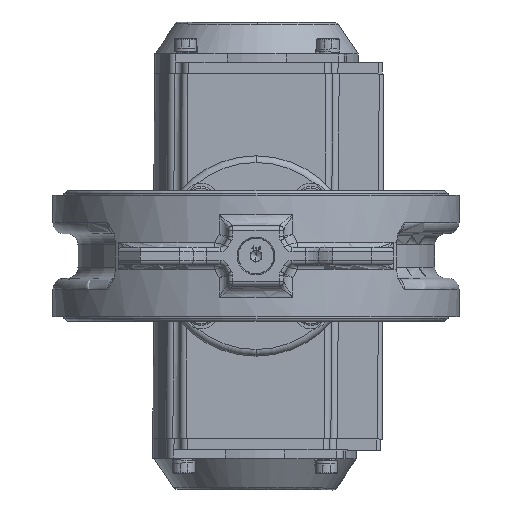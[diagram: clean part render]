
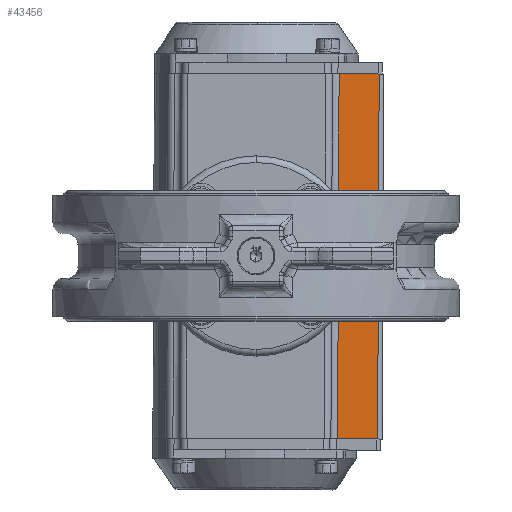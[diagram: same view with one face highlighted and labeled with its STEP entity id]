
A CAD part, front view. The second image highlights one B-rep face of the part: STEP entity #43456.
In plain terms, the highlighted planar face has unit normal (0, -1, 0).
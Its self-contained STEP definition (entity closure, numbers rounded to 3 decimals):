
#10376 = ORIENTED_EDGE ( 'NONE', *, *, #19669, .T. ) ;
#10379 = ORIENTED_EDGE ( 'NONE', *, *, #19766, .F. ) ;
#10382 = ORIENTED_EDGE ( 'NONE', *, *, #19885, .F. ) ;
#10385 = ORIENTED_EDGE ( 'NONE', *, *, #20078, .T. ) ;
#19669 = EDGE_CURVE ( 'NONE', #96257, #96248, #108053, .T. ) ;
#19766 = EDGE_CURVE ( 'NONE', #96335, #96248, #108387, .T. ) ;
#19885 = EDGE_CURVE ( 'NONE', #96408, #96335, #108707, .T. ) ;
#20078 = EDGE_CURVE ( 'NONE', #96408, #96257, #109332, .T. ) ;
#43456 = ADVANCED_FACE ( 'NONE', ( #225683 ), #225687, .T. ) ;
#53060 = AXIS2_PLACEMENT_3D ( 'NONE', #225649, #225694, #225697 ) ;
#55884 = EDGE_LOOP ( 'NONE', ( #10376, #10379, #10382, #10385 ) ) ;
#82483 = VECTOR ( 'NONE', #108068, 1000. ) ;
#82629 = VECTOR ( 'NONE', #108412, 1000. ) ;
#82853 = VECTOR ( 'NONE', #108730, 1000. ) ;
#83238 = VECTOR ( 'NONE', #109337, 1000. ) ;
#96248 = VERTEX_POINT ( 'NONE', #216008 ) ;
#96257 = VERTEX_POINT ( 'NONE', #216014 ) ;
#96335 = VERTEX_POINT ( 'NONE', #216065 ) ;
#96408 = VERTEX_POINT ( 'NONE', #216129 ) ;
#108035 = CARTESIAN_POINT ( 'NONE',  ( -0.335, 218., -81.999 ) ) ;
#108053 = LINE ( 'NONE', #108035, #82483 ) ;
#108068 = DIRECTION ( 'NONE',  ( 1., 0., -0.004 ) ) ;
#108368 = CARTESIAN_POINT ( 'NONE',  ( 56.208, 218., 295.563 ) ) ;
#108387 = LINE ( 'NONE', #108368, #82629 ) ;
#108412 = DIRECTION ( 'NONE',  ( -0.004, 0., -1. ) ) ;
#108707 = LINE ( 'NONE', #108710, #82853 ) ;
#108710 = CARTESIAN_POINT ( 'NONE',  ( 0.335, 218., 81.999 ) ) ;
#108730 = DIRECTION ( 'NONE',  ( 1., 0., -0.004 ) ) ;
#109332 = LINE ( 'NONE', #109335, #83238 ) ;
#109335 = CARTESIAN_POINT ( 'NONE',  ( 36.665, 218., -82.151 ) ) ;
#109337 = DIRECTION ( 'NONE',  ( -0.004, 0., -1. ) ) ;
#216008 = CARTESIAN_POINT ( 'NONE',  ( 54.664, 218., -82.224 ) ) ;
#216014 = CARTESIAN_POINT ( 'NONE',  ( 36.665, 218., -82.151 ) ) ;
#216065 = CARTESIAN_POINT ( 'NONE',  ( 55.335, 218., 81.775 ) ) ;
#216129 = CARTESIAN_POINT ( 'NONE',  ( 37.335, 218., 81.848 ) ) ;
#225649 = CARTESIAN_POINT ( 'NONE',  ( 33.665, 218., -82.138 ) ) ;
#225683 = FACE_OUTER_BOUND ( 'NONE', #55884, .T. ) ;
#225687 = PLANE ( 'NONE',  #53060 ) ;
#225694 = DIRECTION ( 'NONE',  ( 0., -1., 0. ) ) ;
#225697 = DIRECTION ( 'NONE',  ( -0.004, 0., -1. ) ) ;
